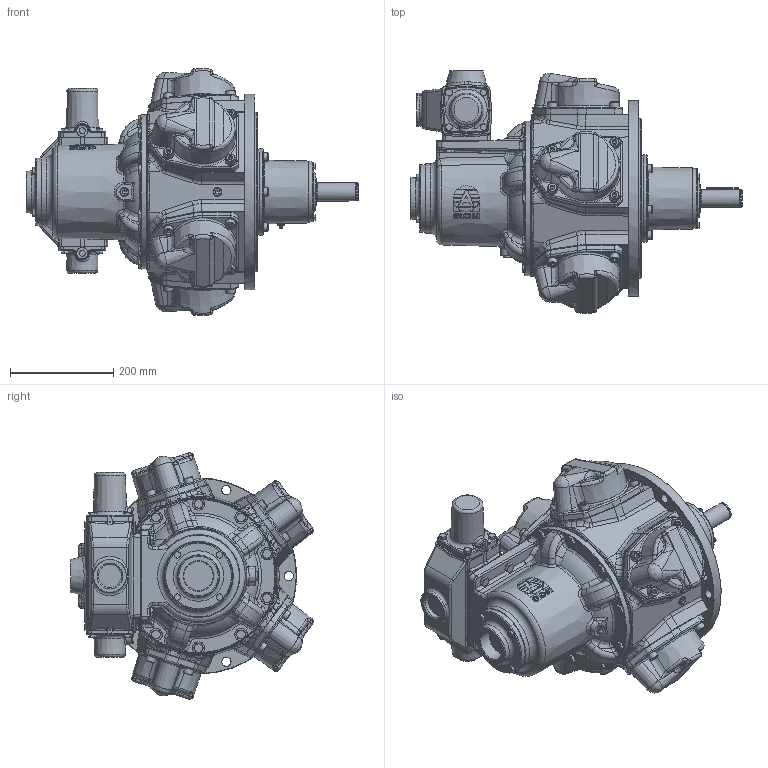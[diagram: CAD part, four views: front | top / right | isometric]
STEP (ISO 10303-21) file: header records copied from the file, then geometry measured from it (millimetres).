
FILE_DESCRIPTION (( 'STEP AP214' ), '1' );
FILE_NAME ('RM610+RCV510 Defeature + Logo.STEP', '2023-05-17T14:13:31', ( '' ), ( '' ), 'SwSTEP 2.0', 'SolidWorks 2022', '' );
FILE_SCHEMA (( 'AUTOMOTIVE_DESIGN' ));
Length unit declared in the file: millimetre
Products named in the file (1): RM610+RCV510 Defeature + Logo
Bounding box: 643.78 x 470.24 x 477.82 mm (x, y, z)
Volume: 35375027.7 mm3; surface area: 982423.3 mm2
Topology: 1 solids, 2 shells, 3431 faces, 8069 edges, 4749 vertices
Faces by surface type: plane 1419, cone 674, bspline 630, cylinder 541, torus 141, sphere 26
Full cylindrical faces by diameter (mm): 2.5 x2, 3.2 x1, 10 x5, 11.445 x5, 11.9 x12, 16 x15, 17 x22, 18 x25, 20 x20, 21.5 x3, 22 x2, 24.8 x1, 35.01 x1, 44.845 x2, 48 x1, 51.398 x1, 57 x1, 62 x1, 64 x1, 125 x1, 165.045 x1, 169 x1, 302 x1, 309.96 x1, 380 x1
Entity records: 182666 total; most frequent: CARTESIAN_POINT 74541, ORIENTED_EDGE 15248, DIRECTION 13356, EDGE_CURVE 7624, AXIS2_PLACEMENT_3D 5365, VERTEX_POINT 4618, EDGE_LOOP 3864, FACE_OUTER_BOUND 3578
